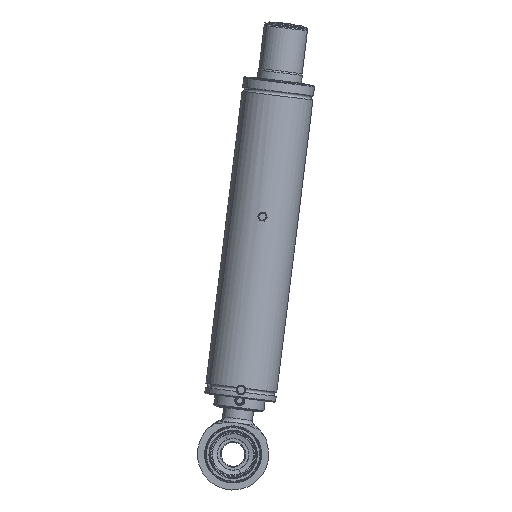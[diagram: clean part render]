
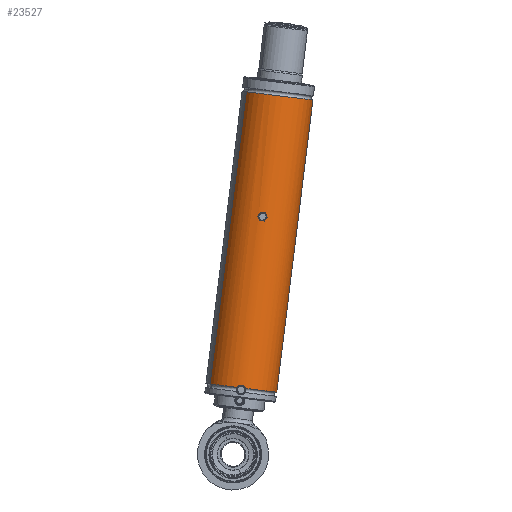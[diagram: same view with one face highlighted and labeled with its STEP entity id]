
A CAD part, front view. The second image highlights one B-rep face of the part: STEP entity #23527.
In plain terms, the highlighted cylindrical face has radius 60.1 mm (diameter 120.2 mm), a partial arc.
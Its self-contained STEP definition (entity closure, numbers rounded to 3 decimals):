
#23117=AXIS2_PLACEMENT_3D('Cylinder Axis2P3D',#23114,#23115,#23116) ;
#23335=AXIS2_PLACEMENT_3D('Circle Axis2P3D',#23333,#23334,$) ;
#23349=AXIS2_PLACEMENT_3D('Circle Axis2P3D',#23347,#23348,$) ;
#23466=AXIS2_PLACEMENT_3D('Circle Axis2P3D',#23464,#23465,$) ;
#23114=CARTESIAN_POINT('Axis2P3D Location',(570.796,-862.5,1986.571)) ;
#23290=CARTESIAN_POINT('Vertex',(542.469,-922.134,1696.856)) ;
#23294=CARTESIAN_POINT('Control Point',(542.469,-922.134,1696.856)) ;
#23295=CARTESIAN_POINT('Control Point',(541.89,-922.233,1698.633)) ;
#23296=CARTESIAN_POINT('Control Point',(540.808,-922.379,1700.244)) ;
#23297=CARTESIAN_POINT('Control Point',(539.288,-922.528,1701.501)) ;
#23298=CARTESIAN_POINT('Control Point',(537.495,-922.6,1702.258)) ;
#23299=CARTESIAN_POINT('Control Point',(535.638,-922.6,1702.488)) ;
#23300=CARTESIAN_POINT('Vertex',(535.638,-922.6,1702.488)) ;
#23330=CARTESIAN_POINT('Vertex',(527.64,-922.134,1698.692)) ;
#23333=CARTESIAN_POINT('Axis2P3D Location',(535.054,-862.5,1697.774)) ;
#23337=CARTESIAN_POINT('Vertex',(482.711,-891.313,1704.252)) ;
#23344=CARTESIAN_POINT('Vertex',(587.398,-833.687,1691.296)) ;
#23347=CARTESIAN_POINT('Axis2P3D Location',(535.054,-862.5,1697.774)) ;
#23414=CARTESIAN_POINT('Control Point',(527.64,-922.134,1698.692)) ;
#23415=CARTESIAN_POINT('Control Point',(528.635,-922.233,1700.274)) ;
#23416=CARTESIAN_POINT('Control Point',(530.076,-922.379,1701.572)) ;
#23417=CARTESIAN_POINT('Control Point',(531.857,-922.528,1702.421)) ;
#23418=CARTESIAN_POINT('Control Point',(533.78,-922.6,1702.718)) ;
#23419=CARTESIAN_POINT('Control Point',(535.638,-922.6,1702.488)) ;
#23457=CARTESIAN_POINT('Line Origine',(618.285,-833.687,1940.867)) ;
#23461=CARTESIAN_POINT('Vertex',(648.319,-833.687,2183.54)) ;
#23464=CARTESIAN_POINT('Axis2P3D Location',(595.975,-862.5,2190.019)) ;
#23468=CARTESIAN_POINT('Vertex',(543.632,-891.313,2196.497)) ;
#23471=CARTESIAN_POINT('Line Origine',(513.598,-891.313,1953.823)) ;
#23486=CARTESIAN_POINT('Control Point',(574.674,-922.513,1991.556)) ;
#23487=CARTESIAN_POINT('Control Point',(575.228,-922.481,1991.158)) ;
#23488=CARTESIAN_POINT('Control Point',(575.731,-922.443,1990.69)) ;
#23489=CARTESIAN_POINT('Control Point',(576.172,-922.403,1990.162)) ;
#23490=CARTESIAN_POINT('Control Point',(577.277,-922.287,1988.431)) ;
#23491=CARTESIAN_POINT('Control Point',(577.689,-922.207,1986.369)) ;
#23492=CARTESIAN_POINT('Control Point',(577.604,-922.195,1984.951)) ;
#23493=CARTESIAN_POINT('Control Point',(576.73,-922.265,1982.285)) ;
#23494=CARTESIAN_POINT('Control Point',(574.7,-922.432,1980.353)) ;
#23495=CARTESIAN_POINT('Control Point',(573.455,-922.52,1979.666)) ;
#23496=CARTESIAN_POINT('Control Point',(571.252,-922.61,1979.112)) ;
#23497=CARTESIAN_POINT('Control Point',(569.048,-922.603,1979.457)) ;
#23498=CARTESIAN_POINT('Control Point',(568.235,-922.584,1979.719)) ;
#23499=CARTESIAN_POINT('Control Point',(567.477,-922.553,1980.103)) ;
#23500=CARTESIAN_POINT('Control Point',(566.796,-922.513,1980.593)) ;
#23501=CARTESIAN_POINT('Vertex',(574.674,-922.513,1991.556)) ;
#23503=CARTESIAN_POINT('Vertex',(566.796,-922.513,1980.593)) ;
#23507=CARTESIAN_POINT('Control Point',(566.796,-922.513,1980.593)) ;
#23508=CARTESIAN_POINT('Control Point',(566.242,-922.481,1980.991)) ;
#23509=CARTESIAN_POINT('Control Point',(565.739,-922.443,1981.459)) ;
#23510=CARTESIAN_POINT('Control Point',(565.298,-922.403,1981.987)) ;
#23511=CARTESIAN_POINT('Control Point',(564.192,-922.287,1983.718)) ;
#23512=CARTESIAN_POINT('Control Point',(563.781,-922.207,1985.78)) ;
#23513=CARTESIAN_POINT('Control Point',(563.866,-922.195,1987.198)) ;
#23514=CARTESIAN_POINT('Control Point',(564.74,-922.265,1989.864)) ;
#23515=CARTESIAN_POINT('Control Point',(566.77,-922.432,1991.796)) ;
#23516=CARTESIAN_POINT('Control Point',(568.015,-922.52,1992.483)) ;
#23517=CARTESIAN_POINT('Control Point',(570.218,-922.61,1993.037)) ;
#23518=CARTESIAN_POINT('Control Point',(572.422,-922.603,1992.692)) ;
#23519=CARTESIAN_POINT('Control Point',(573.235,-922.584,1992.43)) ;
#23520=CARTESIAN_POINT('Control Point',(573.993,-922.553,1992.046)) ;
#23521=CARTESIAN_POINT('Control Point',(574.674,-922.513,1991.556)) ;
#23115=DIRECTION('Axis2P3D Direction',(0.123,0.,0.992)) ;
#23116=DIRECTION('Axis2P3D XDirection',(-0.871,-0.479,0.108)) ;
#23334=DIRECTION('Axis2P3D Direction',(0.123,0.,0.992)) ;
#23348=DIRECTION('Axis2P3D Direction',(0.123,0.,0.992)) ;
#23458=DIRECTION('Vector Direction',(0.123,0.,0.992)) ;
#23465=DIRECTION('Axis2P3D Direction',(0.123,0.,0.992)) ;
#23472=DIRECTION('Vector Direction',(0.123,0.,0.992)) ;
#23459=VECTOR('Line Direction',#23458,1.) ;
#23473=VECTOR('Line Direction',#23472,1.) ;
#23477=ORIENTED_EDGE('',*,*,#23351,.T.) ;
#23478=ORIENTED_EDGE('',*,*,#23463,.F.) ;
#23479=ORIENTED_EDGE('',*,*,#23470,.F.) ;
#23480=ORIENTED_EDGE('',*,*,#23475,.T.) ;
#23481=ORIENTED_EDGE('',*,*,#23339,.T.) ;
#23482=ORIENTED_EDGE('',*,*,#23420,.T.) ;
#23483=ORIENTED_EDGE('',*,*,#23302,.F.) ;
#23524=ORIENTED_EDGE('',*,*,#23505,.T.) ;
#23525=ORIENTED_EDGE('',*,*,#23522,.T.) ;
#23526=FACE_BOUND('',#23523,.T.) ;
#23527=ADVANCED_FACE('130_GasBalancer_pull_case.4\\Pulltype_b.1\\\X2\FF8AFF9FFF70FF82\X0\ \X2\FF8EFF9EFF83FF9EFF68FF70\X0\',(#23484,#23526),#23118,.T.) ;
#23293=B_SPLINE_CURVE_WITH_KNOTS('',5,(#23294,#23295,#23296,#23297,#23298,#23299),.UNSPECIFIED.,.F.,.U.,(6,6),(0.,13.234),.UNSPECIFIED.) ;
#23413=B_SPLINE_CURVE_WITH_KNOTS('',5,(#23414,#23415,#23416,#23417,#23418,#23419),.UNSPECIFIED.,.F.,.U.,(6,6),(0.,13.234),.UNSPECIFIED.) ;
#23485=B_SPLINE_CURVE_WITH_KNOTS('',5,(#23486,#23487,#23488,#23489,#23490,#23491,#23492,#23493,#23494,#23495,#23496,#23497,#23498,#23499,#23500),.UNSPECIFIED.,.F.,.U.,(6,3,3,3,6),(0.,4.826,14.43,24.072,30.013),.UNSPECIFIED.) ;
#23506=B_SPLINE_CURVE_WITH_KNOTS('',5,(#23507,#23508,#23509,#23510,#23511,#23512,#23513,#23514,#23515,#23516,#23517,#23518,#23519,#23520,#23521),.UNSPECIFIED.,.F.,.U.,(6,3,3,3,6),(0.,4.826,14.43,24.072,30.013),.UNSPECIFIED.) ;
#23336=CIRCLE('generated circle',#23335,60.1) ;
#23350=CIRCLE('generated circle',#23349,60.1) ;
#23467=CIRCLE('generated circle',#23466,60.1) ;
#23118=CYLINDRICAL_SURFACE('generated cylinder',#23117,60.1) ;
#23302=EDGE_CURVE('',#23291,#23301,#23293,.T.) ;
#23339=EDGE_CURVE('',#23338,#23331,#23336,.T.) ;
#23351=EDGE_CURVE('',#23291,#23345,#23350,.T.) ;
#23420=EDGE_CURVE('',#23331,#23301,#23413,.T.) ;
#23463=EDGE_CURVE('',#23462,#23345,#23460,.F.) ;
#23470=EDGE_CURVE('',#23469,#23462,#23467,.T.) ;
#23475=EDGE_CURVE('',#23469,#23338,#23474,.F.) ;
#23505=EDGE_CURVE('',#23502,#23504,#23485,.T.) ;
#23522=EDGE_CURVE('',#23504,#23502,#23506,.T.) ;
#23476=EDGE_LOOP('',(#23477,#23478,#23479,#23480,#23481,#23482,#23483)) ;
#23523=EDGE_LOOP('',(#23524,#23525)) ;
#23484=FACE_OUTER_BOUND('',#23476,.T.) ;
#23460=LINE('Line',#23457,#23459) ;
#23474=LINE('Line',#23471,#23473) ;
#23291=VERTEX_POINT('',#23290) ;
#23301=VERTEX_POINT('',#23300) ;
#23331=VERTEX_POINT('',#23330) ;
#23338=VERTEX_POINT('',#23337) ;
#23345=VERTEX_POINT('',#23344) ;
#23462=VERTEX_POINT('',#23461) ;
#23469=VERTEX_POINT('',#23468) ;
#23502=VERTEX_POINT('',#23501) ;
#23504=VERTEX_POINT('',#23503) ;
